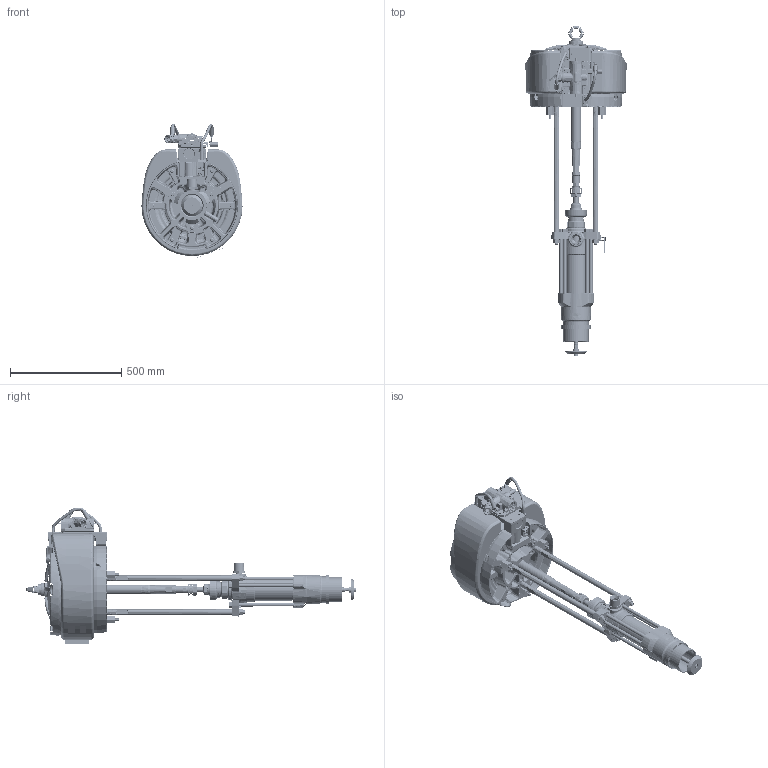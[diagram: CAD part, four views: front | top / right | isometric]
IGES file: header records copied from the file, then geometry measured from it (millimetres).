
Start section:  PTC IGES file: p42lcs-en-e.igs
Global section: file name: p42lcs-en-e.igs; native system: Creo Parametric by PTC Inc.; preprocessor: 2019030; author: qusrh3; organization: Unknown; date: 20200528.135415; units: inch
Bounding box: 454.59 x 1493.56 x 615.5 mm (x, y, z)
Surface area: 3767889.5 mm2 (no closed solid volume)
Topology: 0 solids, 0 shells, 4186 faces, 23378 edges, 23376 vertices
Faces by surface type: revolution 2206, bspline 1976, extrusion 4
